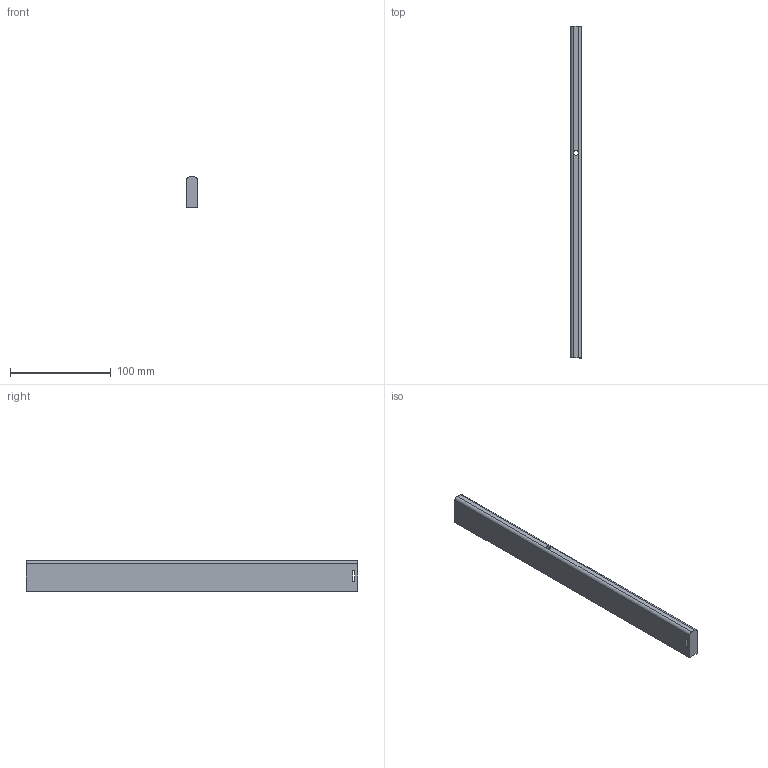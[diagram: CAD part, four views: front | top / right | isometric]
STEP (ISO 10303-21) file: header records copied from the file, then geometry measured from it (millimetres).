
FILE_DESCRIPTION (( 'STEP AP214' ), '1' );
FILE_NAME ('_Seitenreling_S760609500_RL329,5.step', '2010-09-06T14:51:32', ( 'grass' ), ( '' ), 'SwSTEP 2.0', 'SolidWorks 2010', '' );
FILE_SCHEMA (( 'AUTOMOTIVE_DESIGN' ));
Length unit declared in the file: millimetre
Products named in the file (1): _Seitenreling_S760609500_RL329,5
Bounding box: 10.5 x 329.5 x 30 mm (x, y, z)
Volume: 101133.7 mm3; surface area: 27316.5 mm2
Topology: 1 solids, 1 shells, 23 faces, 56 edges, 36 vertices
Faces by surface type: plane 15, cylinder 8
Entity records: 716 total; most frequent: DIRECTION 120, CARTESIAN_POINT 116, ORIENTED_EDGE 112, EDGE_CURVE 56, LINE 40, VECTOR 40, AXIS2_PLACEMENT_3D 40, VERTEX_POINT 36
